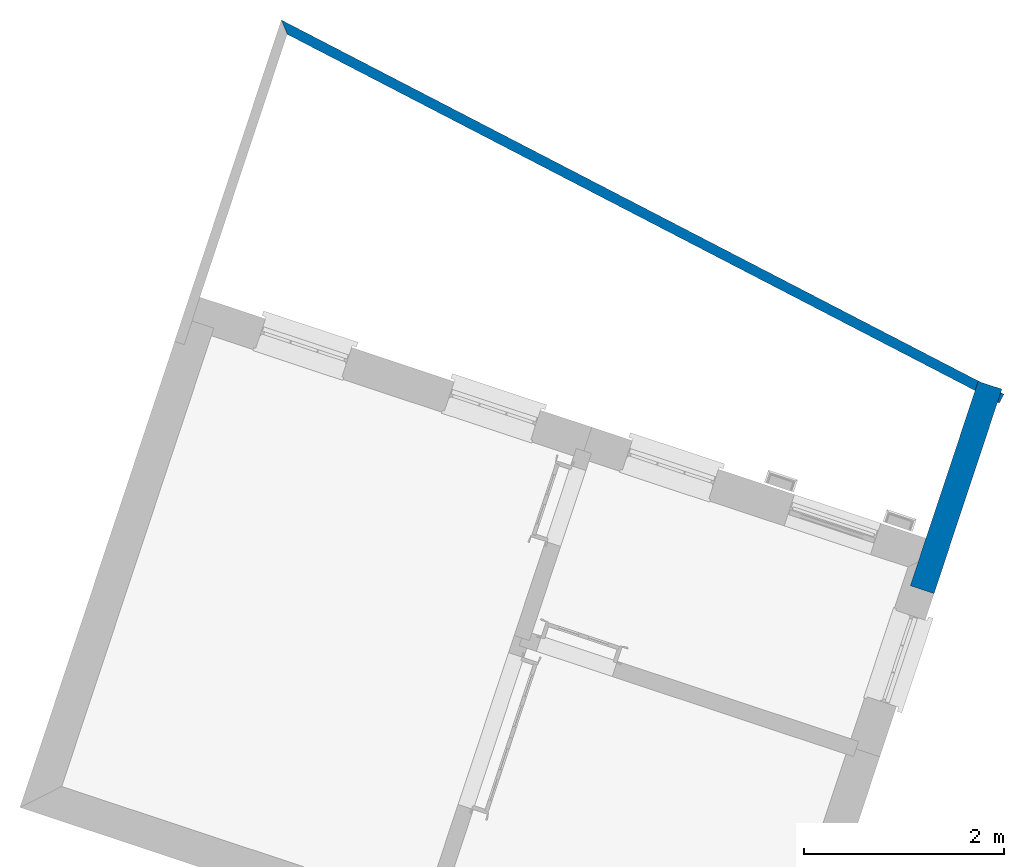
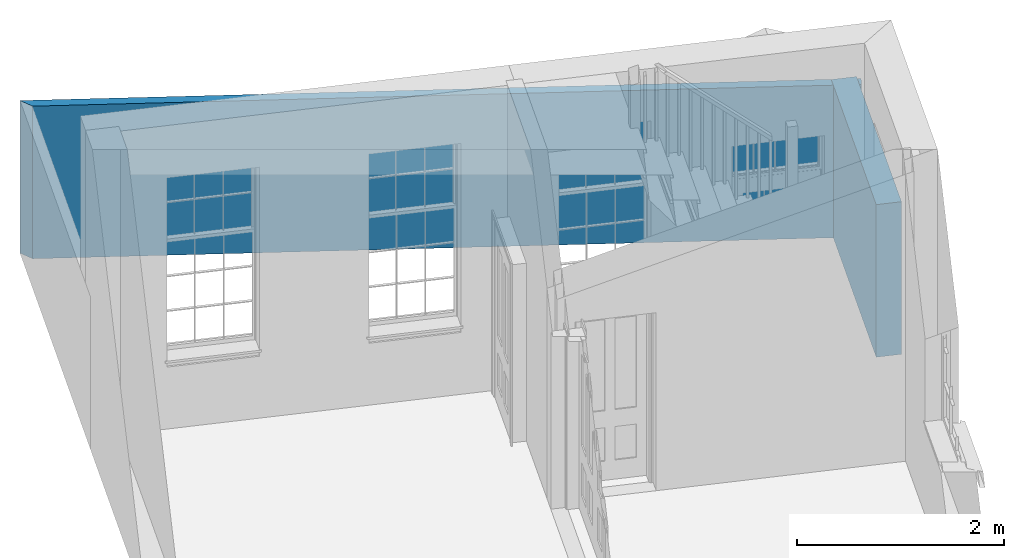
# One storey, part 6 of 6: 2 walls.
"""IFC4 building model written with IfcOpenShell, lengths in metres."""

from ifc_helpers import new_model, si_unit, frame, origin_with_axes, place, context, subcontext, project, spatial, polyline, outline, extrude, material, layer, layer_set, layer_usage, type_object, element, save


model = new_model("IFC4")

# Units and contexts
model_context = context("Model", 3, world=origin_with_axes())
body_context = subcontext(model_context, "Body", "Model", "MODEL_VIEW")
ifc_project = project(units=[si_unit("PLANEANGLEUNIT", "RADIAN"), si_unit("MASSUNIT", "GRAM", prefix="KILO"), si_unit("FORCEUNIT", "NEWTON", prefix="KILO"), si_unit("LENGTHUNIT", "METRE"), si_unit("AREAUNIT", "SQUARE_METRE"), si_unit("VOLUMEUNIT", "CUBIC_METRE")], contexts=[model_context, model_context])

# Sites, building, storey
site_1_placement = place(None, origin_with_axes())
site_1 = spatial("IfcSite", under=ifc_project, at=site_1_placement, Name="Tamar")
site_2_placement = place(site_1_placement, origin_with_axes())
site_2 = spatial("IfcSite", under=site_1, at=site_2_placement, Name="Site plot-17", CompositionType="ELEMENT")
building_placement = place(None, origin_with_axes())
building = spatial("IfcBuilding", under=site_2, at=building_placement, Name="Building plot-17", CompositionType="ELEMENT")
storey_placement = place(None, frame((0.0, 0.0, 26.8), z_axis=(0.0, 0.0, 1.0), x_axis=(1.0, 0.0, 0.0)))
storey = spatial("IfcBuildingStorey", under=building, at=storey_placement, Name="plot-17 0", CompositionType="ELEMENT", Elevation=26.8)

# Walls
ifc_material_1 = material(Name="Masonry")
ifc_layer_1 = layer(ifc_material_1, 0.1, ventilated=False)
ifc_layer_set_1 = layer_set([ifc_layer_1], Name="fence_-0.15_0.25")
ifc_layer_usage_1 = layer_usage(ifc_layer_set_1, "AXIS2", "POSITIVE", -0.25)
wall_type_1 = type_object("IfcWallType", Name="fence_-0.15_0.25", PredefinedType="SOLIDWALL", material=ifc_layer_set_1)
wall_1_placement = place(storey_placement, frame((274.977197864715, 306.819042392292, 0.0), z_axis=(0.0, 0.0, 1.0), x_axis=(-0.887962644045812, 0.459915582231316, 0.0)))
element("IfcWall", 1, at=wall_1_placement, inside=storey, type_object=wall_type_1, material=ifc_layer_usage_1, Name="fence", context=body_context, shape_type="SweptSolid", body=[
    extrude(outline(polyline([(-0.249999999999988, -0.149999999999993), (-0.250000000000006, -0.249999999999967), (7.8866855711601, -0.249999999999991), (7.76956230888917, -0.150000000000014), (-0.249999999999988, -0.149999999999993)])), origin_with_axes(), (0.0, 0.0, 1.0), 1.8),
])
ifc_material_2 = material(Name="Masonry")
ifc_layer_2 = layer(ifc_material_2, 0.25, ventilated=False)
ifc_layer_set_2 = layer_set([ifc_layer_2], Name="fence_0_0.25")
ifc_layer_usage_2 = layer_usage(ifc_layer_set_2, "AXIS2", "POSITIVE", -0.25)
wall_type_2 = type_object("IfcWallType", Name="fence_0_0.25", PredefinedType="SOLIDWALL", material=ifc_layer_set_2)
wall_2_placement = place(storey_placement, frame((274.456288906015, 305.249763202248, 0.0), z_axis=(0.0, 0.0, 1.0), x_axis=(0.315038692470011, 0.949078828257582, 0.0)))
element("IfcWall", 2, at=wall_2_placement, inside=storey, type_object=wall_type_2, material=ifc_layer_usage_2, Name="fence", context=body_context, shape_type="SweptSolid", body=[
    extrude(outline(polyline([(-0.249999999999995, -2.81690486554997e-14), (-0.249999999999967, -0.250000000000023), (1.90347613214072, -0.249999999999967), (1.90347613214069, 2.78953359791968e-14), (-0.249999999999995, -2.81690486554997e-14)])), origin_with_axes(), (0.0, 0.0, 1.0), 1.8),
])

save(model, "model.ifc")
